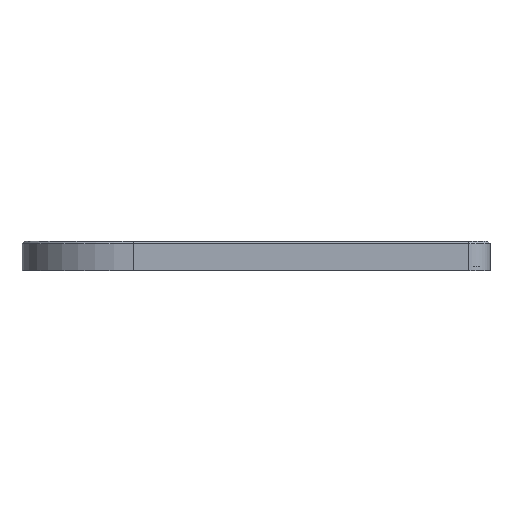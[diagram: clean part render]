
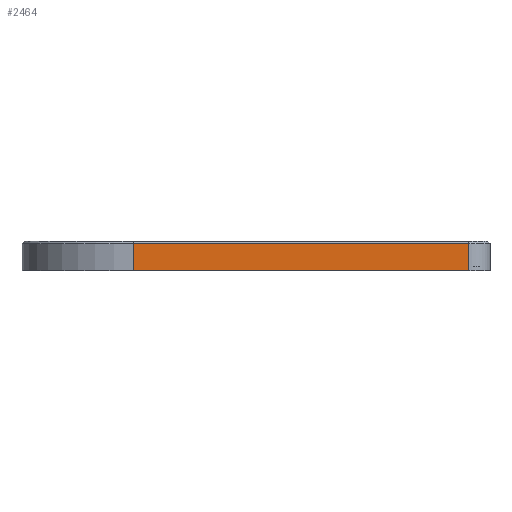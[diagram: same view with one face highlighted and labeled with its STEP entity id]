
A CAD part, left-side view. The second image highlights one B-rep face of the part: STEP entity #2464.
In plain terms, the highlighted planar face has unit normal (-1, 0, 0).
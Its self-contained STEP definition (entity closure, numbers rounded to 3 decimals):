
#44 = CYLINDRICAL_SURFACE('',#45,4.);
#45 = AXIS2_PLACEMENT_3D('',#46,#47,#48);
#46 = CARTESIAN_POINT('',(-26.,-40.05,0.5));
#47 = DIRECTION('',(-0.,-0.,-1.));
#48 = DIRECTION('',(-1.,0.,0.));
#126 = PLANE('',#127);
#127 = AXIS2_PLACEMENT_3D('',#128,#129,#130);
#128 = CARTESIAN_POINT('',(0.,-2.715,0.5));
#129 = DIRECTION('',(0.,0.,1.));
#130 = DIRECTION('',(1.,0.,0.));
#643 = EDGE_CURVE('',#644,#646,#648,.T.);
#644 = VERTEX_POINT('',#645);
#645 = CARTESIAN_POINT('',(-30.,-40.05,0.5));
#646 = VERTEX_POINT('',#647);
#647 = CARTESIAN_POINT('',(-30.,-40.05,5.6));
#648 = SURFACE_CURVE('',#649,(#653,#660),.PCURVE_S1.);
#649 = LINE('',#650,#651);
#650 = CARTESIAN_POINT('',(-30.,-40.05,0.5));
#651 = VECTOR('',#652,1.);
#652 = DIRECTION('',(0.,0.,1.));
#653 = PCURVE('',#44,#654);
#654 = DEFINITIONAL_REPRESENTATION('',(#655),#659);
#655 = LINE('',#656,#657);
#656 = CARTESIAN_POINT('',(-0.,0.));
#657 = VECTOR('',#658,1.);
#658 = DIRECTION('',(-0.,-1.));
#659 = ( GEOMETRIC_REPRESENTATION_CONTEXT(2) 
PARAMETRIC_REPRESENTATION_CONTEXT() REPRESENTATION_CONTEXT('2D SPACE',''
  ) );
#660 = PCURVE('',#661,#666);
#661 = PLANE('',#662);
#662 = AXIS2_PLACEMENT_3D('',#663,#664,#665);
#663 = CARTESIAN_POINT('',(-30.,23.05,0.5));
#664 = DIRECTION('',(1.,0.,-0.));
#665 = DIRECTION('',(0.,-1.,0.));
#666 = DEFINITIONAL_REPRESENTATION('',(#667),#671);
#667 = LINE('',#668,#669);
#668 = CARTESIAN_POINT('',(63.1,0.));
#669 = VECTOR('',#670,1.);
#670 = DIRECTION('',(0.,-1.));
#671 = ( GEOMETRIC_REPRESENTATION_CONTEXT(2) 
PARAMETRIC_REPRESENTATION_CONTEXT() REPRESENTATION_CONTEXT('2D SPACE',''
  ) );
#914 = VERTEX_POINT('',#915);
#915 = CARTESIAN_POINT('',(-30.,23.05,0.5));
#930 = CYLINDRICAL_SURFACE('',#931,21.);
#931 = AXIS2_PLACEMENT_3D('',#932,#933,#934);
#932 = CARTESIAN_POINT('',(-9.,23.05,0.5));
#933 = DIRECTION('',(-0.,0.,-1.));
#934 = DIRECTION('',(0.,1.,0.));
#942 = EDGE_CURVE('',#914,#644,#943,.T.);
#943 = SURFACE_CURVE('',#944,(#948,#955),.PCURVE_S1.);
#944 = LINE('',#945,#946);
#945 = CARTESIAN_POINT('',(-30.,23.05,0.5));
#946 = VECTOR('',#947,1.);
#947 = DIRECTION('',(0.,-1.,0.));
#948 = PCURVE('',#126,#949);
#949 = DEFINITIONAL_REPRESENTATION('',(#950),#954);
#950 = LINE('',#951,#952);
#951 = CARTESIAN_POINT('',(-30.,25.765));
#952 = VECTOR('',#953,1.);
#953 = DIRECTION('',(0.,-1.));
#954 = ( GEOMETRIC_REPRESENTATION_CONTEXT(2) 
PARAMETRIC_REPRESENTATION_CONTEXT() REPRESENTATION_CONTEXT('2D SPACE',''
  ) );
#955 = PCURVE('',#661,#956);
#956 = DEFINITIONAL_REPRESENTATION('',(#957),#961);
#957 = LINE('',#958,#959);
#958 = CARTESIAN_POINT('',(0.,0.));
#959 = VECTOR('',#960,1.);
#960 = DIRECTION('',(1.,0.));
#961 = ( GEOMETRIC_REPRESENTATION_CONTEXT(2) 
PARAMETRIC_REPRESENTATION_CONTEXT() REPRESENTATION_CONTEXT('2D SPACE',''
  ) );
#2464 = ADVANCED_FACE('',(#2465),#661,.F.);
#2465 = FACE_BOUND('',#2466,.F.);
#2466 = EDGE_LOOP('',(#2467,#2490,#2516,#2517));
#2467 = ORIENTED_EDGE('',*,*,#2468,.T.);
#2468 = EDGE_CURVE('',#914,#2469,#2471,.T.);
#2469 = VERTEX_POINT('',#2470);
#2470 = CARTESIAN_POINT('',(-30.,23.05,5.6));
#2471 = SURFACE_CURVE('',#2472,(#2476,#2483),.PCURVE_S1.);
#2472 = LINE('',#2473,#2474);
#2473 = CARTESIAN_POINT('',(-30.,23.05,0.5));
#2474 = VECTOR('',#2475,1.);
#2475 = DIRECTION('',(0.,0.,1.));
#2476 = PCURVE('',#661,#2477);
#2477 = DEFINITIONAL_REPRESENTATION('',(#2478),#2482);
#2478 = LINE('',#2479,#2480);
#2479 = CARTESIAN_POINT('',(0.,0.));
#2480 = VECTOR('',#2481,1.);
#2481 = DIRECTION('',(0.,-1.));
#2482 = ( GEOMETRIC_REPRESENTATION_CONTEXT(2) 
PARAMETRIC_REPRESENTATION_CONTEXT() REPRESENTATION_CONTEXT('2D SPACE',''
  ) );
#2483 = PCURVE('',#930,#2484);
#2484 = DEFINITIONAL_REPRESENTATION('',(#2485),#2489);
#2485 = LINE('',#2486,#2487);
#2486 = CARTESIAN_POINT('',(-1.571,0.));
#2487 = VECTOR('',#2488,1.);
#2488 = DIRECTION('',(-0.,-1.));
#2489 = ( GEOMETRIC_REPRESENTATION_CONTEXT(2) 
PARAMETRIC_REPRESENTATION_CONTEXT() REPRESENTATION_CONTEXT('2D SPACE',''
  ) );
#2490 = ORIENTED_EDGE('',*,*,#2491,.T.);
#2491 = EDGE_CURVE('',#2469,#646,#2492,.T.);
#2492 = SURFACE_CURVE('',#2493,(#2497,#2504),.PCURVE_S1.);
#2493 = LINE('',#2494,#2495);
#2494 = CARTESIAN_POINT('',(-30.,23.05,5.6));
#2495 = VECTOR('',#2496,1.);
#2496 = DIRECTION('',(0.,-1.,0.));
#2497 = PCURVE('',#661,#2498);
#2498 = DEFINITIONAL_REPRESENTATION('',(#2499),#2503);
#2499 = LINE('',#2500,#2501);
#2500 = CARTESIAN_POINT('',(0.,-5.1));
#2501 = VECTOR('',#2502,1.);
#2502 = DIRECTION('',(1.,0.));
#2503 = ( GEOMETRIC_REPRESENTATION_CONTEXT(2) 
PARAMETRIC_REPRESENTATION_CONTEXT() REPRESENTATION_CONTEXT('2D SPACE',''
  ) );
#2504 = PCURVE('',#2505,#2510);
#2505 = PLANE('',#2506);
#2506 = AXIS2_PLACEMENT_3D('',#2507,#2508,#2509);
#2507 = CARTESIAN_POINT('',(-29.75,23.05,5.85));
#2508 = DIRECTION('',(0.707,0.,-0.707)
  );
#2509 = DIRECTION('',(0.,1.,0.));
#2510 = DEFINITIONAL_REPRESENTATION('',(#2511),#2515);
#2511 = LINE('',#2512,#2513);
#2512 = CARTESIAN_POINT('',(-0.,-0.354));
#2513 = VECTOR('',#2514,1.);
#2514 = DIRECTION('',(-1.,0.));
#2515 = ( GEOMETRIC_REPRESENTATION_CONTEXT(2) 
PARAMETRIC_REPRESENTATION_CONTEXT() REPRESENTATION_CONTEXT('2D SPACE',''
  ) );
#2516 = ORIENTED_EDGE('',*,*,#643,.F.);
#2517 = ORIENTED_EDGE('',*,*,#942,.F.);
